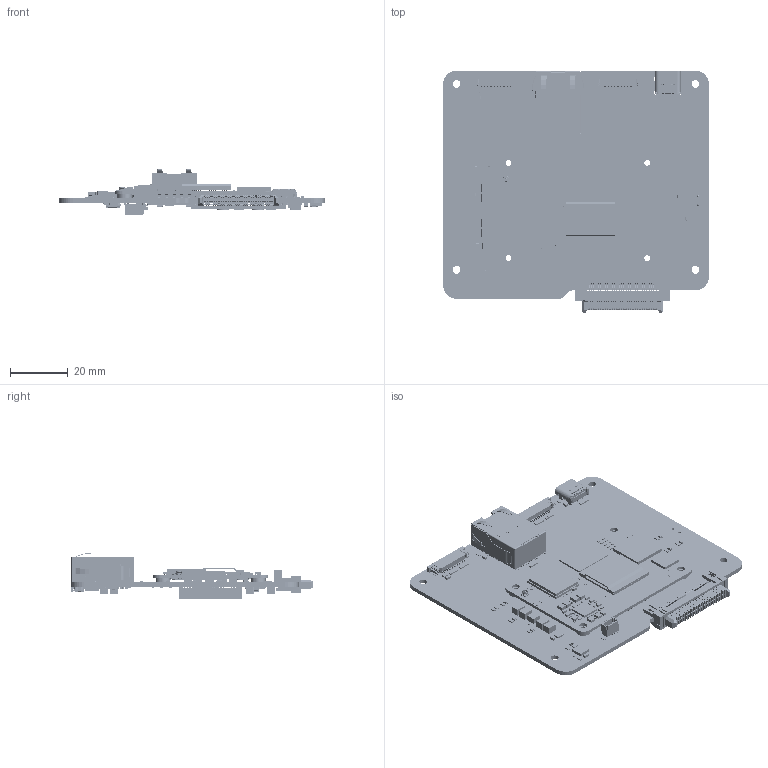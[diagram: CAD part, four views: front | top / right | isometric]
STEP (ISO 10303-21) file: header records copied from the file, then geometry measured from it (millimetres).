
FILE_DESCRIPTION(('Open CASCADE Model'),'2;1');
FILE_NAME('Open CASCADE Shape Model','2026-11-16T16:25:18',('Author'),( 'Open CASCADE'),'Open CASCADE STEP processor 7.5','Open CASCADE 7.5' ,'Unknown');
FILE_SCHEMA(('AUTOMOTIVE_DESIGN { 1 0 10303 214 1 1 1 1 }'));
Length unit declared in the file: millimetre
Products named in the file (833): PCB; Board; Open CASCADE STEP translator 7.5 1.1.1; C35; 39737738; Terminal; Open CASCADE STEP translator 7.5 24.1.1; Open CASCADE STEP translator 7.5 24.1.2; Mid Body; Open CASCADE STEP translator 7.5 24.2.1; C34; SW1; 450404015514; Frame; Pin 4; Frame 1; Pin 1; Pin 2; Pin 3; Slider 1; Slider; Cover; BPC; ERM8-030-01-L-D-EM2-TR; ERM8-030-01-D-EM2tl; ERM8-030-01-D-EM2_pin; ERM8-030-01-D-EM23_pin; D18; STEP-WE-TVS-DFN3810-9L-rev1; pins; housing; D17; USB; 632722200211; 632722200211_Housing; 632722200211_Housing2; 632722200211_Shielding_2_v2; 632722200211_Pin3_Top; 632722200211_Pin2_Top; 632722200211_Pin1_Top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
Assembly tree (1342 placements, depth 9):
  PCB
    Board
      Open CASCADE STEP translator 7.5 1.1.1
    C35
      39737738
        Terminal
          Open CASCADE STEP translator 7.5 24.1.1
          Open CASCADE STEP translator 7.5 24.1.2
        Mid Body
          Open CASCADE STEP translator 7.5 24.2.1
    C34
      39737738
        Terminal
          Open CASCADE STEP translator 7.5 24.1.1
          Open CASCADE STEP translator 7.5 24.1.2
        Mid Body
          Open CASCADE STEP translator 7.5 24.2.1
    SW1
      450404015514
        Frame
        Pin 4
        Frame 1
        Pin 1
        Pin 2
        Pin 3
        Slider 1
        Slider
        Cover
    BPC
      ERM8-030-01-L-D-EM2-TR
        ERM8-030-01-D-EM2tl
        ERM8-030-01-D-EM2_pin
        ERM8-030-01-D-EM23_pin
    D18
      STEP-WE-TVS-DFN3810-9L-rev1
        pins
        pins
        pins
        pins
        pins
        pins
        pins
        pins
        pins
        housing
    D17
      STEP-WE-TVS-DFN3810-9L-rev1
        pins
        pins
        pins
        pins
        pins
        pins
        pins
        pins
        pins
        housing
    USB
      632722200211
        632722200211_Housing
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Bounding box: 92 x 84.06 x 15.86 mm (x, y, z)
Volume: 18491.9 mm3; surface area: 39031 mm2
Topology: 1932 solids, 1935 shells, 52859 faces, 137745 edges, 87673 vertices
Faces by surface type: plane 30747, cylinder 13482, sphere 4752, bspline 3380, extrusion 377, torus 69, cone 52
Full cylindrical faces by diameter (mm): 0.1 x3, 0.15 x4, 0.155 x3, 0.173 x2, 0.2 x6, 0.25 x1, 0.4 x2, 0.45 x2, 0.5 x6, 0.6 x2, 0.75 x2, 0.8 x3, 0.9 x2, 1.1 x1, 1.2 x2, 1.4 x2, 1.45 x1, 1.567 x2, 1.6 x1, 2.013 x4, 2.7 x4, 2.8 x2, 3 x2, 3.5 x4, 3.7 x4, 4.35 x2, 5.1 x4
Entity records: 759890 total; most frequent: CARTESIAN_POINT 160163, ORIENTED_EDGE 107920, DIRECTION 105624, EDGE_CURVE 53961, VECTOR 37858, LINE 37593, VERTEX_POINT 35744, AXIS2_PLACEMENT_3D 33883
